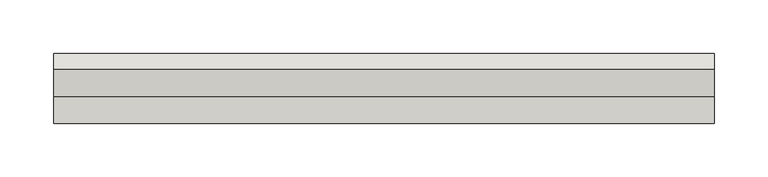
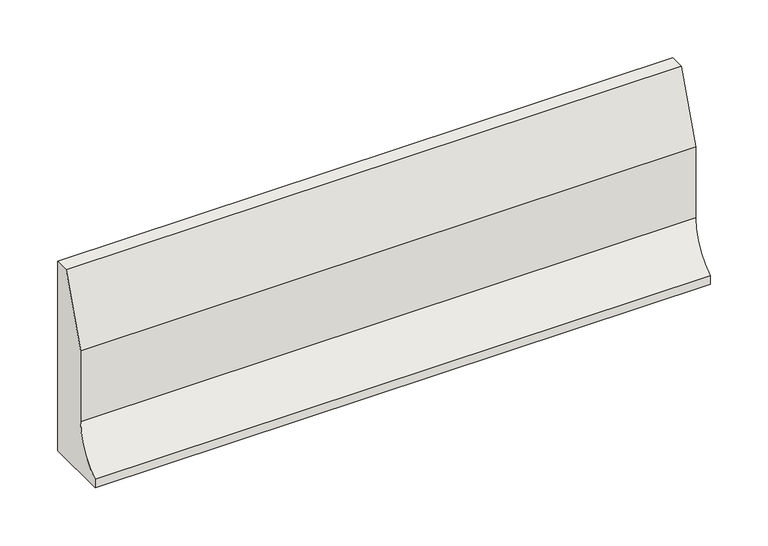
"""IFC4 building model written with IfcOpenShell, lengths in millimetres: wall geometry, GM_PC_WPB_ACO kerb PB straight_ACO : PB H200 plain."""

from ifc_helpers import new_model, si_unit, point, frame, frame_2d, origin, place, context, project, spatial, polyline, circle_curve, trimmed, segment, composite_curve, outline, extrude, source, transform, mapped, element, save


def wall_ae31afe3(model_context):
    return source(origin(), model_context, "Body", "SweptSolid", [
        extrude(outline(composite_curve([segment(polyline([(-40.0039527, 130.0277035), (-14.8571389, 200.0197419), (0.0, 200.0197419), (0.0, 0.0), (-65.0223078, 0.0), (-65.0223078, 8.9062534)]), True, "CONTINUOUS"), segment(trimmed(circle_curve(frame_2d((-94.2239515, 54.592465)), 54.2214526), [point((-65.0223078, 8.9062534))], [point((-40.0039527, 54.9895287))], True, "CARTESIAN"), True, "CONTINUOUS"), segment(polyline([(-40.0039527, 54.9895287), (-40.0039527, 130.0277035)]), True, "CONTINUOUS")], self_intersect=False)), frame((0.0, 0.0, 0.0), z_axis=(1.0, 0.0, 0.0), x_axis=(0.0, 1.0, 0.0)), (0.0, 0.0, 1.0), 615.0),
    ])


if __name__ == "__main__":
    model = new_model("IFC4")
    model_context = context("Model", 3, world=origin())
    ifc_project = project(units=[si_unit("LENGTHUNIT", "METRE", prefix="MILLI")], contexts=[model_context])
    site = spatial("IfcSite", under=ifc_project)
    building = spatial("IfcBuilding", under=site)
    placement = place(None, origin())
    wall_shape = wall_ae31afe3(model_context)
    element("IfcWall", 1, ObjectType="GM_PC_WPB_ACO kerb PB straight_ACO : PB H200 plain", at=placement, inside=building, context=model_context, shape_type="MappedRepresentation", body=[
        mapped(wall_shape, transform((0.0, 0.0, 0.0), x_axis=(1.0, 0.0, 0.0), y_axis=(0.0, 1.0, 0.0), z_axis=(0.0, 0.0, 1.0))),
    ])
    save(model, "model.ifc")
